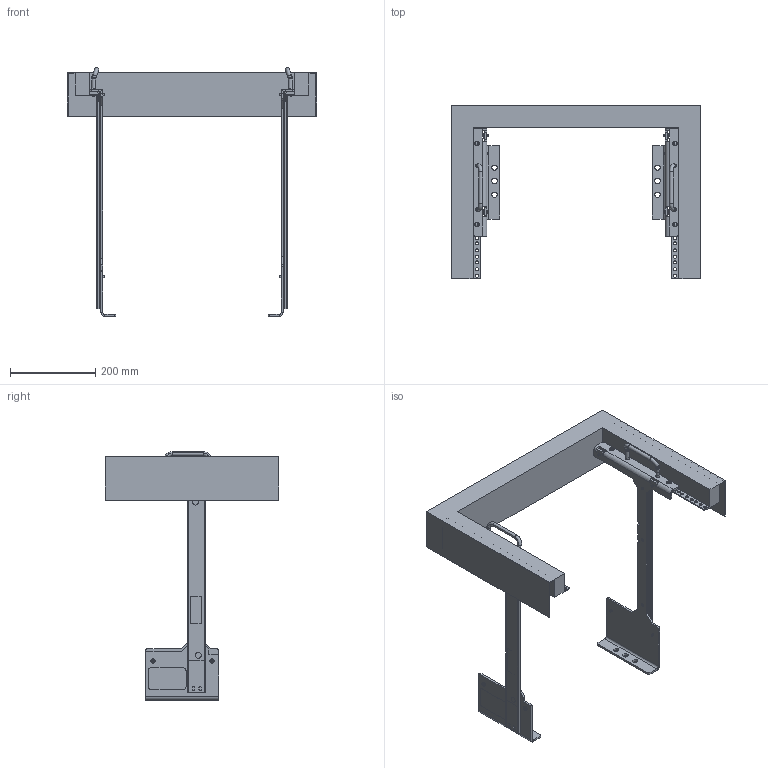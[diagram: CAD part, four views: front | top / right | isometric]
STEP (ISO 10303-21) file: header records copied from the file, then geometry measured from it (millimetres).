
FILE_DESCRIPTION((''),'2;1');
FILE_NAME('MODULE_RACKMNT_SPF_ASM','2025-08-26T15:54:33',('mthomps2'),(''),'CREO PARAMETRIC BY PTC INC, 2022284','CREO PARAMETRIC BY PTC INC, 2022284','');
FILE_SCHEMA(('CONFIG_CONTROL_DESIGN','SHAPE_APPEARANCE_LAYERS_GROUPS'));
Length unit declared in the file: inch
Products named in the file (18): MODULE_RACKMNT_SPF_SKEL; RACK_STANDARD_HPP; RACKMNT_RIGHT_EAR_SPF; FHS-032-6; RACKMNT_SPACER_SPF; LABEL_RACKMNT_HPP; RACKMNT_RIGHT_EAR_SPF_ASM; RACKMNT_LEFT_EAR_SPF; RACKMNT_LEFT_EAR_SPF_ASM; RACKMNT_SLIDE1_HPP; RACKMNT_SLIDE2_HPP; RACKMNT_SLIDE3_HPP; RACKMNT_SLIDE_HPP_ASM; 210045800; 212057700; RACKMNT_HANDLE_HPP; SCREW_10-32_RACKMNTKIT_LAN; MODULE_RACKMNT_SPF_ASM
Assembly tree (49 placements, depth 3):
  MODULE_RACKMNT_SPF_ASM
    MODULE_RACKMNT_SPF_SKEL
    RACK_STANDARD_HPP
    RACKMNT_RIGHT_EAR_SPF_ASM
      RACKMNT_RIGHT_EAR_SPF
      FHS-032-6  x3
      RACKMNT_SPACER_SPF  x2
      LABEL_RACKMNT_HPP
    RACKMNT_LEFT_EAR_SPF_ASM
      RACKMNT_LEFT_EAR_SPF
      FHS-032-6  x3
      RACKMNT_SPACER_SPF  x2
      LABEL_RACKMNT_HPP
    RACKMNT_SLIDE_HPP_ASM  x2
      RACKMNT_SLIDE1_HPP
      RACKMNT_SLIDE2_HPP
      RACKMNT_SLIDE3_HPP
    210045800  x6
    212057700  x4
    RACKMNT_HANDLE_HPP  x2
    SCREW_10-32_RACKMNTKIT_LAN  x14
Bounding box: 584.99 x 406.81 x 584.2 mm (x, y, z)
Volume: 5240887.4 mm3; surface area: 1057766.2 mm2
Topology: 47 solids, 47 shells, 1487 faces, 6341 edges, 7488 vertices
Faces by surface type: plane 847, cylinder 572, torus 44, bspline 8, sphere 8, cone 8
Entity records: 36473 total; most frequent: CARTESIAN_POINT 8671, DIRECTION 3990, ORIENTED_EDGE 3462, PRESENTATION_STYLE_ASSIGNMENT 2624, STYLED_ITEM 2620, CURVE_STYLE 2612, EDGE_CURVE 1731, AXIS2_PLACEMENT_3D 1366
